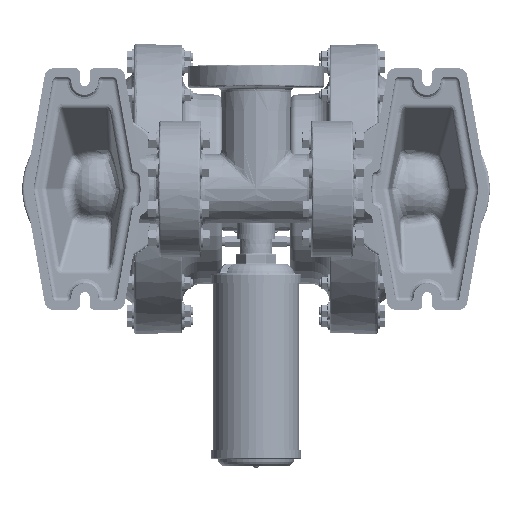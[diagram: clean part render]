
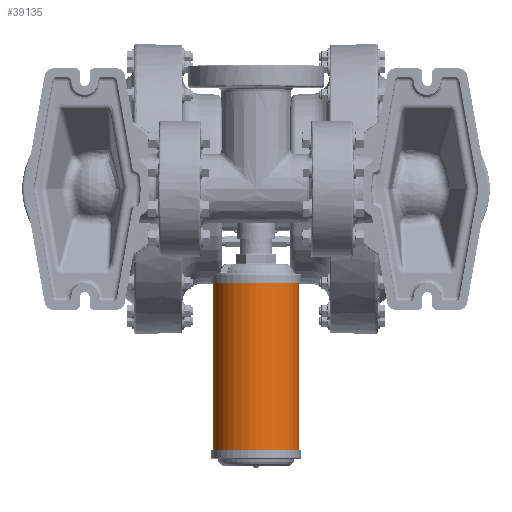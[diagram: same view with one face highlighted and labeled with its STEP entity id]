
A CAD part, front view. The second image highlights one B-rep face of the part: STEP entity #39135.
In plain terms, the highlighted cylindrical face has radius 63.5 mm (diameter 127 mm), a partial arc.
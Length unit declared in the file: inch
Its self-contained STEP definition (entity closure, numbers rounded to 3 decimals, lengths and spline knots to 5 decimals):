
#4242=CYLINDRICAL_SURFACE('',#166430,2.5);
#19319=LINE('',#297932,#29596);
#19325=LINE('',#298037,#29602);
#29596=VECTOR('',#192477,1.);
#29602=VECTOR('',#192493,1.);
#39135=ADVANCED_FACE('',(#53542),#4242,.T.);
#53542=FACE_OUTER_BOUND('',#63145,.T.);
#63145=EDGE_LOOP('',(#91359,#91360,#91361,#91362,#91363,#91364,#91365,#91366));
#91359=ORIENTED_EDGE('',*,*,#142335,.F.);
#91360=ORIENTED_EDGE('',*,*,#142284,.F.);
#91361=ORIENTED_EDGE('',*,*,#142266,.F.);
#91362=ORIENTED_EDGE('',*,*,#142350,.F.);
#91363=ORIENTED_EDGE('',*,*,#142348,.F.);
#91364=ORIENTED_EDGE('',*,*,#142299,.F.);
#91365=ORIENTED_EDGE('',*,*,#142252,.T.);
#91366=ORIENTED_EDGE('',*,*,#142292,.F.);
#123118=VERTEX_POINT('',#297933);
#123119=VERTEX_POINT('',#297934);
#123129=VERTEX_POINT('',#298035);
#123131=VERTEX_POINT('',#298038);
#123142=VERTEX_POINT('',#298161);
#123147=VERTEX_POINT('',#298186);
#123152=VERTEX_POINT('',#298208);
#123181=VERTEX_POINT('',#298313);
#142252=EDGE_CURVE('',#123118,#123119,#19319,.T.);
#142266=EDGE_CURVE('',#123129,#123131,#19325,.T.);
#142284=EDGE_CURVE('',#123131,#123142,#156969,.T.);
#142292=EDGE_CURVE('',#123147,#123119,#156973,.T.);
#142299=EDGE_CURVE('',#123118,#123152,#156979,.T.);
#142335=EDGE_CURVE('',#123142,#123147,#157002,.T.);
#142348=EDGE_CURVE('',#123152,#123181,#157013,.T.);
#142350=EDGE_CURVE('',#123181,#123129,#157014,.T.);
#156969=CIRCLE('',#166358,2.5);
#156973=CIRCLE('',#166363,2.5);
#156979=CIRCLE('',#166372,2.5);
#157002=CIRCLE('',#166408,2.5);
#157013=CIRCLE('',#166427,2.5);
#157014=CIRCLE('',#166429,2.5);
#166358=AXIS2_PLACEMENT_3D('',#298160,#192523,#192524);
#166363=AXIS2_PLACEMENT_3D('',#298187,#192535,#192536);
#166372=AXIS2_PLACEMENT_3D('',#298207,#192553,#192554);
#166408=AXIS2_PLACEMENT_3D('',#298284,#192637,#192638);
#166427=AXIS2_PLACEMENT_3D('',#298312,#192677,#192678);
#166429=AXIS2_PLACEMENT_3D('',#298316,#192682,#192683);
#166430=AXIS2_PLACEMENT_3D('',#298317,#192684,#192685);
#192477=DIRECTION('',(0.,0.,1.));
#192493=DIRECTION('',(0.,0.,1.));
#192523=DIRECTION('',(0.,0.,1.));
#192524=DIRECTION('',(-1.,0.,0.));
#192535=DIRECTION('',(0.,0.,1.));
#192536=DIRECTION('',(-1.,0.,0.));
#192553=DIRECTION('',(0.,0.,-1.));
#192554=DIRECTION('',(1.,0.,0.));
#192637=DIRECTION('',(0.,0.,1.));
#192638=DIRECTION('',(-1.,0.,0.));
#192677=DIRECTION('',(0.,0.,-1.));
#192678=DIRECTION('',(1.,0.,0.));
#192682=DIRECTION('',(0.,0.,-1.));
#192683=DIRECTION('',(1.,0.,0.));
#192684=DIRECTION('',(0.,0.,1.));
#192685=DIRECTION('',(-1.,0.,0.));
#297932=CARTESIAN_POINT('',(0.19171,-6.01736,-15.47228));
#297933=CARTESIAN_POINT('',(0.19171,-6.01736,-15.38834));
#297934=CARTESIAN_POINT('',(0.19171,-6.01736,-5.17325));
#298035=CARTESIAN_POINT('',(0.14488,-6.0142,-15.38834));
#298037=CARTESIAN_POINT('',(0.14488,-6.0142,-15.47228));
#298038=CARTESIAN_POINT('',(0.14488,-6.0142,-5.17325));
#298160=CARTESIAN_POINT('',(0.,-8.51,-5.17325));
#298161=CARTESIAN_POINT('',(-2.16506,-9.76,-5.17325));
#298186=CARTESIAN_POINT('',(2.16506,-7.26,-5.17325));
#298187=CARTESIAN_POINT('',(0.,-8.51,-5.17325));
#298207=CARTESIAN_POINT('',(0.,-8.51,-15.38834));
#298208=CARTESIAN_POINT('',(2.16506,-7.26,-15.38834));
#298284=CARTESIAN_POINT('',(0.,-8.51,-5.17325));
#298312=CARTESIAN_POINT('',(0.,-8.51,-15.38834));
#298313=CARTESIAN_POINT('',(-2.16506,-9.76,-15.38834));
#298316=CARTESIAN_POINT('',(0.,-8.51,-15.38834));
#298317=CARTESIAN_POINT('',(0.,-8.51,-15.47228));
